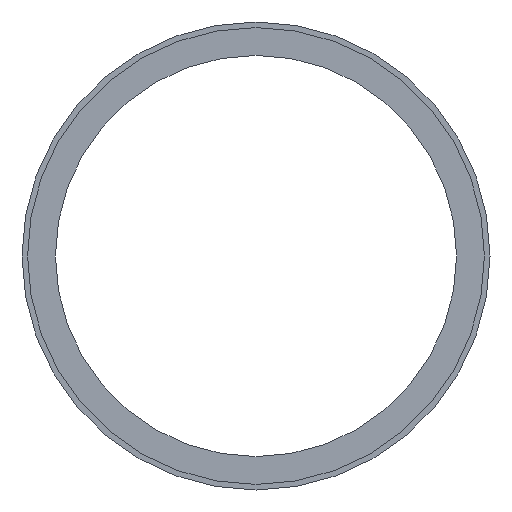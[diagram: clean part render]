
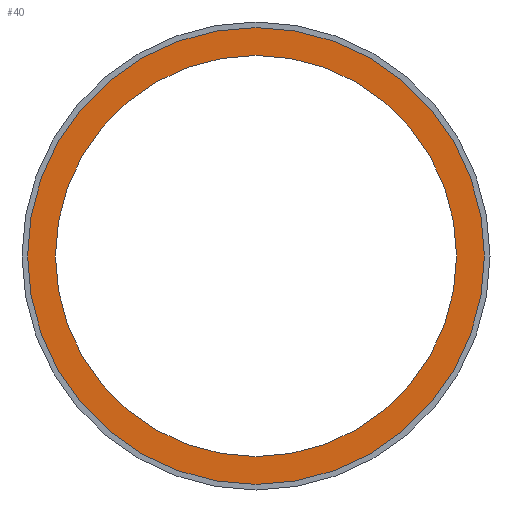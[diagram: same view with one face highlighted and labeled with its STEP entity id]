
A CAD part, front view. The second image highlights one B-rep face of the part: STEP entity #40.
In plain terms, the highlighted planar face has unit normal (0, -1, 0).
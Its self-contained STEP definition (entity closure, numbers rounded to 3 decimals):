
#40 = ADVANCED_FACE( '', ( #81, #82 ), #83, .F. );
#81 = FACE_OUTER_BOUND( '', #120, .T. );
#82 = FACE_BOUND( '', #121, .T. );
#83 = PLANE( '', #122 );
#120 = EDGE_LOOP( '', ( #161 ) );
#121 = EDGE_LOOP( '', ( #162 ) );
#122 = AXIS2_PLACEMENT_3D( '', #163, #164, #165 );
#161 = ORIENTED_EDGE( '', *, *, #191, .T. );
#162 = ORIENTED_EDGE( '', *, *, #186, .F. );
#163 = CARTESIAN_POINT( '', ( 0., 0., 21. ) );
#164 = DIRECTION( '', ( 0., 1., 0. ) );
#165 = DIRECTION( '', ( 0., 0., 1. ) );
#186 = EDGE_CURVE( '', #203, #203, #204, .T. );
#191 = EDGE_CURVE( '', #211, #211, #212, .T. );
#203 = VERTEX_POINT( '', #227 );
#204 = CIRCLE( '', #228, 18. );
#211 = VERTEX_POINT( '', #235 );
#212 = CIRCLE( '', #236, 20.5 );
#227 = CARTESIAN_POINT( '', ( 0., 0., -18. ) );
#228 = AXIS2_PLACEMENT_3D( '', #251, #252, #253 );
#235 = CARTESIAN_POINT( '', ( 0., 0., -20.5 ) );
#236 = AXIS2_PLACEMENT_3D( '', #260, #261, #262 );
#251 = CARTESIAN_POINT( '', ( 0., 0., 0. ) );
#252 = DIRECTION( '', ( 0., -1., 0. ) );
#253 = DIRECTION( '', ( 0., 0., -1. ) );
#260 = CARTESIAN_POINT( '', ( 0., 0., 0. ) );
#261 = DIRECTION( '', ( 0., -1., 0. ) );
#262 = DIRECTION( '', ( 0., 0., -1. ) );
